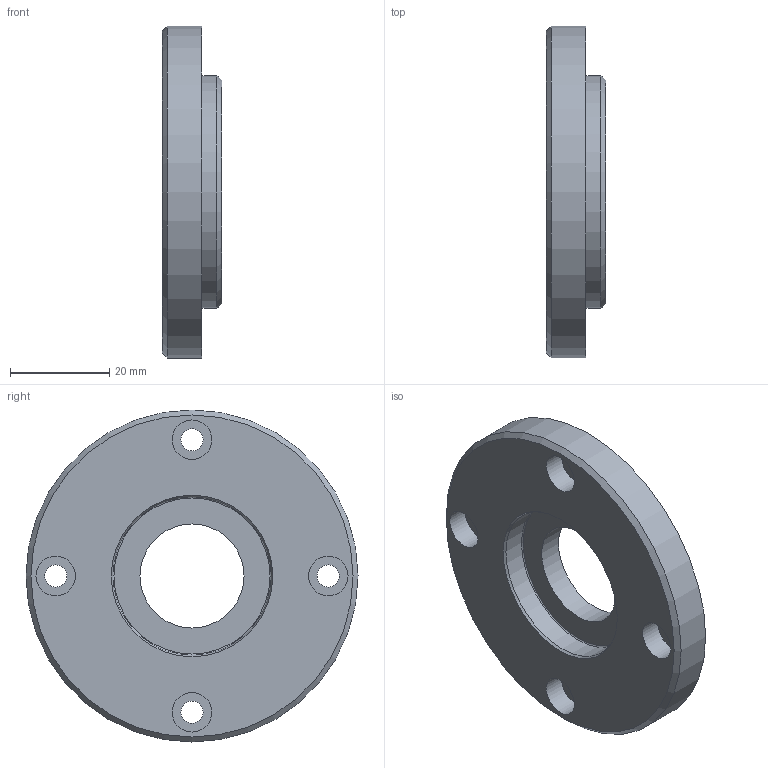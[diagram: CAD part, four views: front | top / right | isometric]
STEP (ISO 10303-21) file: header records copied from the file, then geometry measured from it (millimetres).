
FILE_DESCRIPTION(/* description */ (''),/* implementation_level */ '2;1');
FILE_NAME(/* name */ '',/* time_stamp */ '2024-04-08T11:27:46+09:00',/* author */ ('jhkim'),/* organization */ (''),/* preprocessor_version */ 'ST-DEVELOPER v20',/* originating_system */ 'Autodesk Inventor 2025',/* authorisation */ '');
FILE_SCHEMA (('AUTOMOTIVE_DESIGN { 1 0 10303 214 3 1 1 }'));
Length unit declared in the file: millimetre
Products named in the file (1): 커버
Bounding box: 12 x 67 x 67 mm (x, y, z)
Volume: 25363.2 mm3; surface area: 10004.6 mm2
Topology: 1 solids, 1 shells, 26 faces, 48 edges, 31 vertices
Faces by surface type: cylinder 13, plane 9, cone 3, torus 1
Full cylindrical faces by diameter (mm): 4.5 x4, 8 x4, 21 x1, 32 x1, 41 x1, 47 x1, 67 x1
Entity records: 723 total; most frequent: DIRECTION 134, CARTESIAN_POINT 106, ORIENTED_EDGE 96, AXIS2_PLACEMENT_3D 59, EDGE_CURVE 48, EDGE_LOOP 43, CIRCLE 32, VERTEX_POINT 31
